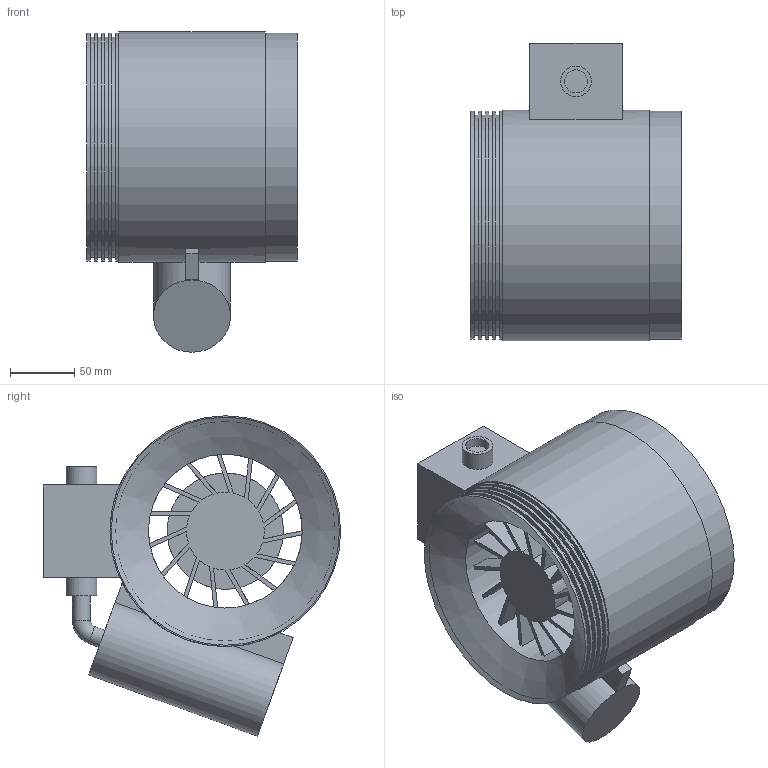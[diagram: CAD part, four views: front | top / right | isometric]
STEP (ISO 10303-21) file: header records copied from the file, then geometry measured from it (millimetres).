
FILE_DESCRIPTION(/* description */ (''),/* implementation_level */ '2;1');
FILE_NAME(/* name */ 'Z:\Output\RRK_180_EX-05889-002.stp',/* time_stamp */ '2020-06-26T10:10:57+02:00',/* author */ ('engineering1'),/* organization */ (''),/* preprocessor_version */ 'ST-DEVELOPER v17.2',/* originating_system */ 'Autodesk Inventor 2019',/* authorisation */ '');
FILE_SCHEMA (('AUTOMOTIVE_DESIGN { 1 0 10303 214 3 1 1 }'));
Length unit declared in the file: millimetre
Products named in the file (1): RRK-1
Bounding box: 164 x 232 x 250 mm (x, y, z)
Volume: 3062395.1 mm3; surface area: 279456.2 mm2
Topology: 2 solids, 2 shells, 150 faces, 380 edges, 248 vertices
Faces by surface type: plane 111, cylinder 37, cone 1, torus 1
Full cylindrical faces by diameter (mm): 14 x2, 18 x2, 24 x2, 60 x1, 60.667 x1, 90.667 x1, 171.75 x4, 178 x6, 180 x1
Entity records: 5169 total; most frequent: CARTESIAN_POINT 933, DIRECTION 846, ORIENTED_EDGE 818, EDGE_CURVE 409, VERTEX_POINT 306, AXIS2_PLACEMENT_3D 289, LINE 268, VECTOR 268
